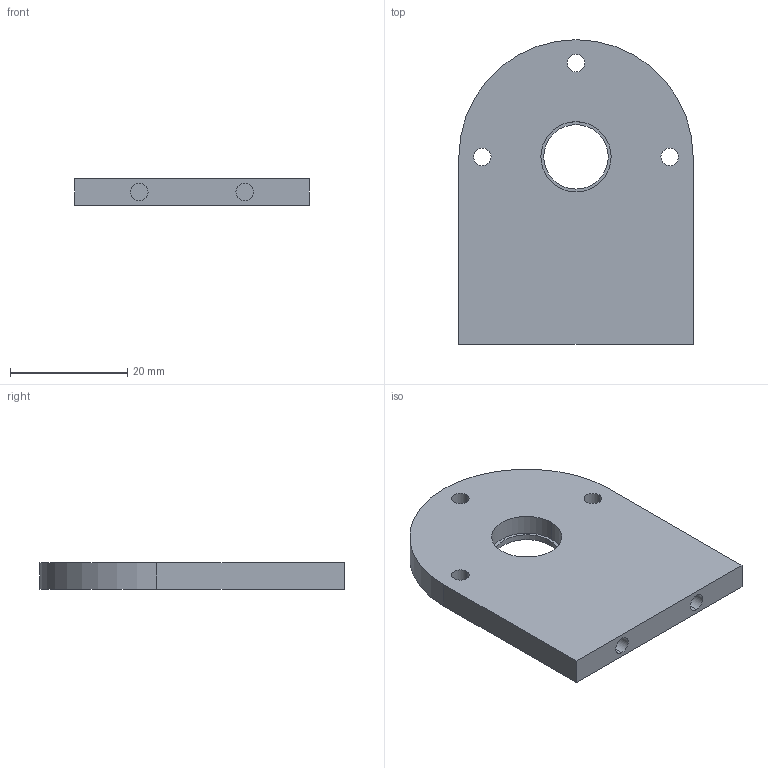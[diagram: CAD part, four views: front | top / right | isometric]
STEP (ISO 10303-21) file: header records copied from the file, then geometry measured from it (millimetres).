
FILE_DESCRIPTION (( 'STEP AP214' ), '1' );
FILE_NAME ('菁釱錨璃.STEP', '2024-11-14T11:34:04', ( '' ), ( '' ), 'SwSTEP 2.0', 'SolidWorks 2021', '' );
FILE_SCHEMA (( 'AUTOMOTIVE_DESIGN' ));
Length unit declared in the file: millimetre
Products named in the file (1): 菁釱錨璃
Bounding box: 40 x 52 x 4.5 mm (x, y, z)
Volume: 7930.4 mm3; surface area: 4722.9 mm2
Topology: 1 solids, 1 shells, 23 faces, 54 edges, 36 vertices
Faces by surface type: cylinder 15, plane 8
Entity records: 728 total; most frequent: DIRECTION 132, CARTESIAN_POINT 114, ORIENTED_EDGE 108, AXIS2_PLACEMENT_3D 54, EDGE_CURVE 54, VERTEX_POINT 36, EDGE_LOOP 34, CIRCLE 30
